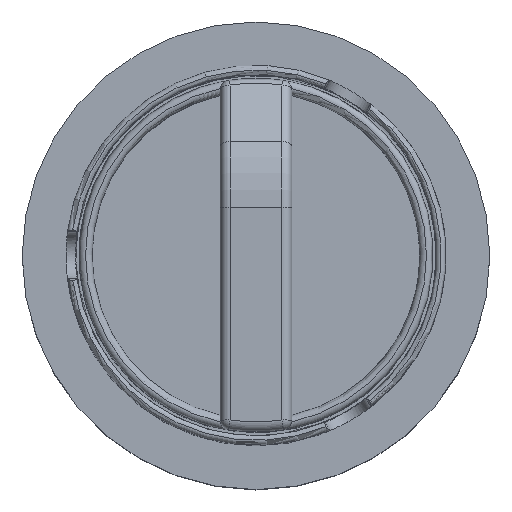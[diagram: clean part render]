
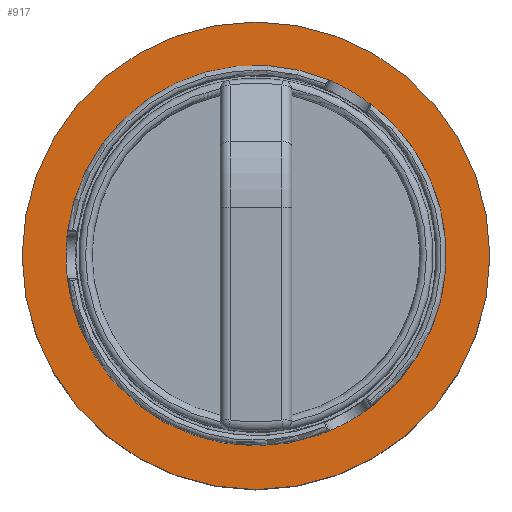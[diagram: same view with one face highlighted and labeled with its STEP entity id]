
A CAD part, top view. The second image highlights one B-rep face of the part: STEP entity #917.
In plain terms, the highlighted planar face has unit normal (0, 0.005, 1) as drawn and (0, 0, 1) by its records, which use the part's own axes.
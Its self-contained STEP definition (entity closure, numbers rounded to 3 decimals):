
#61 = CARTESIAN_POINT ( 'NONE',  ( 36., 0., 8. ) ) ;
#118 = EDGE_CURVE ( 'NONE', #820, #820, #3254, .T. ) ;
#297 = DIRECTION ( 'NONE',  ( 1., 0., 0. ) ) ;
#482 = ORIENTED_EDGE ( 'NONE', *, *, #3169, .F. ) ;
#522 = VERTEX_POINT ( 'NONE', #2879 ) ;
#550 = FACE_OUTER_BOUND ( 'NONE', #1244, .T. ) ;
#552 = DIRECTION ( 'NONE',  ( 0., 0., 1. ) ) ;
#640 = FACE_BOUND ( 'NONE', #3377, .T. ) ;
#820 = VERTEX_POINT ( 'NONE', #61 ) ;
#917 = ADVANCED_FACE ( 'NONE', ( #640, #550 ), #2062, .T. ) ;
#1153 = ORIENTED_EDGE ( 'NONE', *, *, #118, .T. ) ;
#1244 = EDGE_LOOP ( 'NONE', ( #1153 ) ) ;
#1484 = CIRCLE ( 'NONE', #3938, 29.25 ) ;
#1549 = DIRECTION ( 'NONE',  ( 1., 0., 0. ) ) ;
#2062 = PLANE ( 'NONE',  #3774 ) ;
#2256 = DIRECTION ( 'NONE',  ( 0., 0., 1. ) ) ;
#2395 = CARTESIAN_POINT ( 'NONE',  ( 0., 0., 8. ) ) ;
#2484 = CARTESIAN_POINT ( 'NONE',  ( 0., 0., 8. ) ) ;
#2834 = CARTESIAN_POINT ( 'NONE',  ( 0., 0., 8. ) ) ;
#2879 = CARTESIAN_POINT ( 'NONE',  ( 29.25, 0., 8. ) ) ;
#3169 = EDGE_CURVE ( 'NONE', #522, #522, #1484, .T. ) ;
#3254 = CIRCLE ( 'NONE', #4081, 36. ) ;
#3377 = EDGE_LOOP ( 'NONE', ( #482 ) ) ;
#3774 = AXIS2_PLACEMENT_3D ( 'NONE', #2395, #3989, #3978 ) ;
#3938 = AXIS2_PLACEMENT_3D ( 'NONE', #2834, #2256, #297 ) ;
#3978 = DIRECTION ( 'NONE',  ( 1., 0., 0. ) ) ;
#3989 = DIRECTION ( 'NONE',  ( 0., 0., 1. ) ) ;
#4081 = AXIS2_PLACEMENT_3D ( 'NONE', #2484, #552, #1549 ) ;
